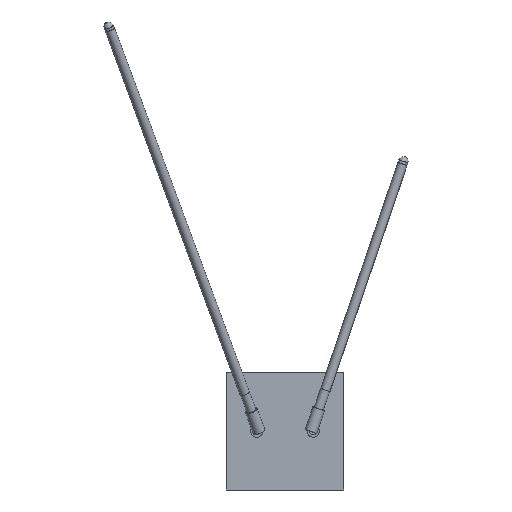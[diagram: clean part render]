
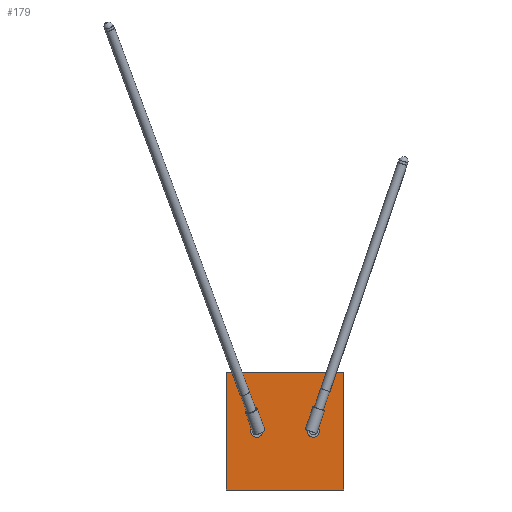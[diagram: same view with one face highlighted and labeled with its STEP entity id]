
A CAD part, front view. The second image highlights one B-rep face of the part: STEP entity #179.
In plain terms, the highlighted planar face has unit normal (0, -1, 0).
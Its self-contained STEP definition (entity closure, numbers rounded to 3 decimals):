
#179=ADVANCED_FACE('',(#307),#1788,.T.);
#307=FACE_OUTER_BOUND('',#435,.T.);
#435=EDGE_LOOP('',(#964,#965,#966,#967));
#964=ORIENTED_EDGE('',*,*,#1227,.T.);
#965=ORIENTED_EDGE('',*,*,#1229,.T.);
#966=ORIENTED_EDGE('',*,*,#1231,.T.);
#967=ORIENTED_EDGE('',*,*,#1233,.T.);
#1227=EDGE_CURVE('',#1682,#1683,#1501,.T.);
#1229=EDGE_CURVE('',#1683,#1684,#1503,.T.);
#1231=EDGE_CURVE('',#1684,#1685,#1505,.T.);
#1233=EDGE_CURVE('',#1685,#1682,#1507,.T.);
#1501=B_SPLINE_CURVE_WITH_KNOTS('',1,(#3565,#3566),.UNSPECIFIED.,.F.,.F.,
(2,2),(0.,125.),.UNSPECIFIED.);
#1503=B_SPLINE_CURVE_WITH_KNOTS('',1,(#3569,#3570),.UNSPECIFIED.,.F.,.F.,
(2,2),(0.,125.),.UNSPECIFIED.);
#1505=B_SPLINE_CURVE_WITH_KNOTS('',1,(#3573,#3574),.UNSPECIFIED.,.F.,.F.,
(2,2),(-125.,0.),.UNSPECIFIED.);
#1507=B_SPLINE_CURVE_WITH_KNOTS('',1,(#3577,#3578),.UNSPECIFIED.,.F.,.F.,
(2,2),(-125.,0.),.UNSPECIFIED.);
#1682=VERTEX_POINT('',#3551);
#1683=VERTEX_POINT('',#3552);
#1684=VERTEX_POINT('',#3553);
#1685=VERTEX_POINT('',#3554);
#1788=PLANE('',#1971);
#1971=AXIS2_PLACEMENT_3D('',#3546,#2070,$);
#2070=DIRECTION('',(0.,-1.,0.));
#3546=CARTESIAN_POINT('',(11379.897,1773.277,0.));
#3551=CARTESIAN_POINT('',(11379.897,1773.277,0.));
#3552=CARTESIAN_POINT('',(11504.897,1773.277,0.));
#3553=CARTESIAN_POINT('',(11504.897,1773.277,125.));
#3554=CARTESIAN_POINT('',(11379.897,1773.277,125.));
#3565=CARTESIAN_POINT('',(11379.897,1773.277,0.));
#3566=CARTESIAN_POINT('',(11504.897,1773.277,0.));
#3569=CARTESIAN_POINT('',(11504.897,1773.277,0.));
#3570=CARTESIAN_POINT('',(11504.897,1773.277,125.));
#3573=CARTESIAN_POINT('',(11504.897,1773.277,125.));
#3574=CARTESIAN_POINT('',(11379.897,1773.277,125.));
#3577=CARTESIAN_POINT('',(11379.897,1773.277,125.));
#3578=CARTESIAN_POINT('',(11379.897,1773.277,0.));
